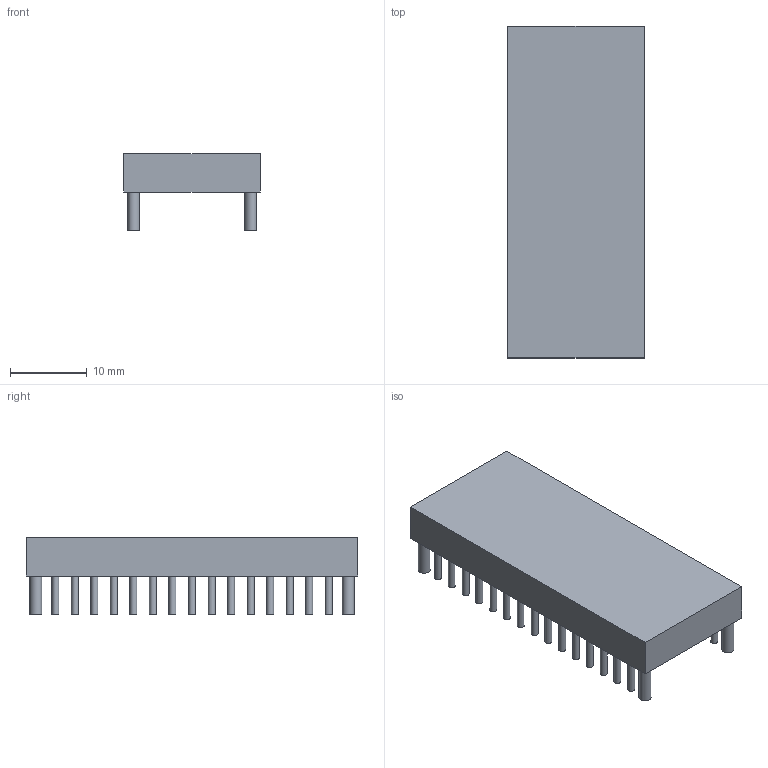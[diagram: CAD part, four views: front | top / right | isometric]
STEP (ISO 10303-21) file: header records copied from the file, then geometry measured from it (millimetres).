
FILE_DESCRIPTION(('FreeCAD Model'),'2;1');
FILE_NAME('/var/www/3D/0T/1383576.1.1.stp','2019-02-19T04:45:33',( 'Author'),(''),'Open CASCADE STEP processor 6.8','FreeCAD','Unknown' );
FILE_SCHEMA(('AUTOMOTIVE_DESIGN_CC2 { 1 2 10303 214 -1 1 5 4 }'));
Length unit declared in the file: millimetre
Products named in the file (3): ASSEMBLY; Body; Leads
Assembly tree (35 placements, depth 2):
  ASSEMBLY
    Body
    Leads  x34
Bounding box: 17.78 x 43.18 x 10 mm (x, y, z)
Surface area: 21955 mm2
Topology: 1157 solids, 1157 shells, 3474 faces, 3480 edges, 2320 vertices
Faces by surface type: plane 2318, cylinder 1156
Full cylindrical faces by diameter (mm): 0.91 x1020, 1.578 x136
Entity records: 4069 total; most frequent: DIRECTION 698, CARTESIAN_POINT 562, ORIENTED_EDGE 228, PCURVE 228, DEFINITIONAL_REPRESENTATION 228, AXIS2_PLACEMENT_3D 212, LINE 206, VECTOR 206
